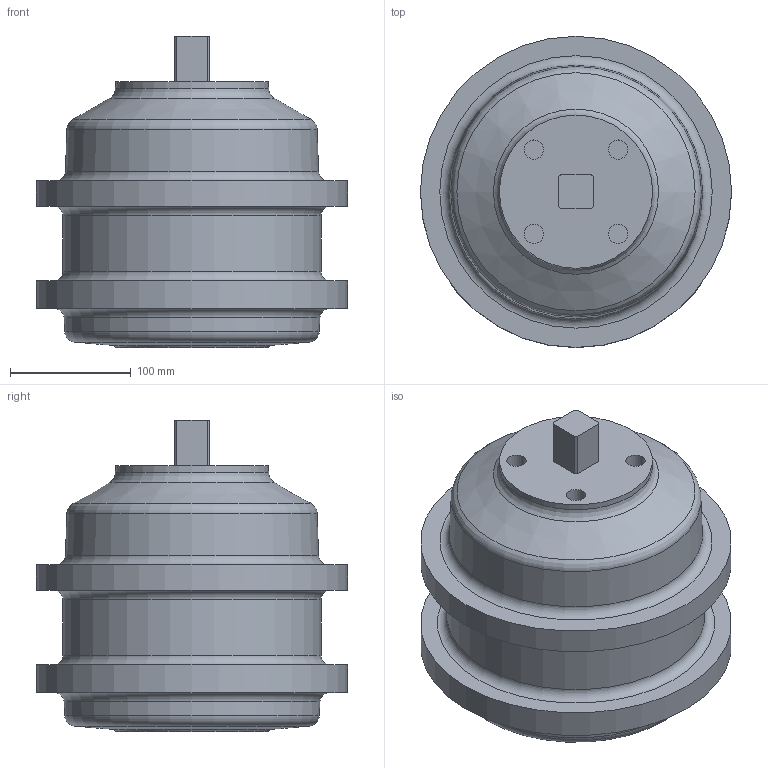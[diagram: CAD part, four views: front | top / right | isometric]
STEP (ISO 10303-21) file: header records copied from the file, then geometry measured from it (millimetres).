
FILE_DESCRIPTION( ( 'Unknown' ), '1' );
FILE_NAME( 'H:/3D Models for Customers/Spring Return/144-020-4900 144-030-4900/144-020-4900 144-030-4900.stp', 'Unknown', ( 'Unknown' ), ( 'Unknown' ), 'PSStep 13.0', 'Unknown', ' ' );
FILE_SCHEMA( ( 'AUTOMOTIVE_DESIGN { 1 0 10303 214 1 1 1 1 }' ) );
Length unit declared in the file: millimetre
Products named in the file (1): 1
Bounding box: 258 x 258 x 258.5 mm (x, y, z)
Volume: 7878096.5 mm3; surface area: 277737.4 mm2
Topology: 1 solids, 5 shells, 64 faces, 112 edges, 72 vertices
Faces by surface type: plane 32, cylinder 20, torus 8, cone 4
Full cylindrical faces by diameter (mm): 13.835 x4, 16 x8, 127 x1, 214 x1, 258 x2
Entity records: 1898 total; most frequent: DIRECTION 264, CARTESIAN_POINT 215, ORIENTED_EDGE 162, AXIS2_PLACEMENT_3D 118, EDGE_LOOP 106, FACE_OUTER_BOUND 88, EDGE_CURVE 81, VERTEX_POINT 69
